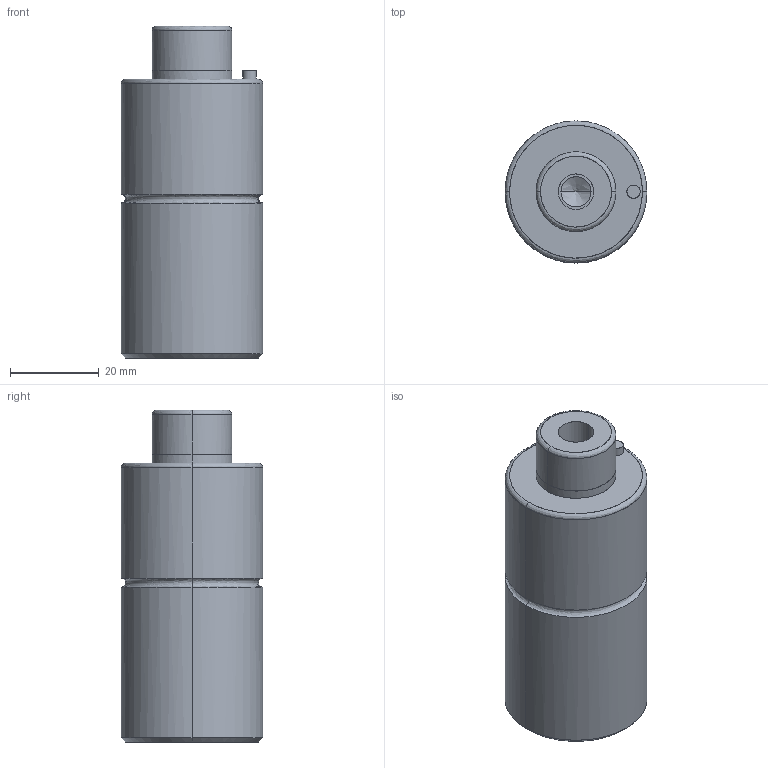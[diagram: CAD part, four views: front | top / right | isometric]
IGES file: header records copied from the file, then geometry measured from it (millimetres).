
Global section: file name: E:\UnigraphicsGraphicData\MISUMI_PRESS-PARTS\IGES\3d_gsm32-10_03941_r00.igs; native system: NX V5.0; preprocessor: UGS NX IGES V5.0; author: MISUMI; date: 20110105.160809; units: millimetre
Bounding box: 32 x 31.99 x 75 mm (x, y, z)
Surface area: 9478.1 mm2 (no closed solid volume)
Topology: 0 solids, 0 shells, 50 faces, 328 edges, 320 vertices
Faces by surface type: bspline 50
